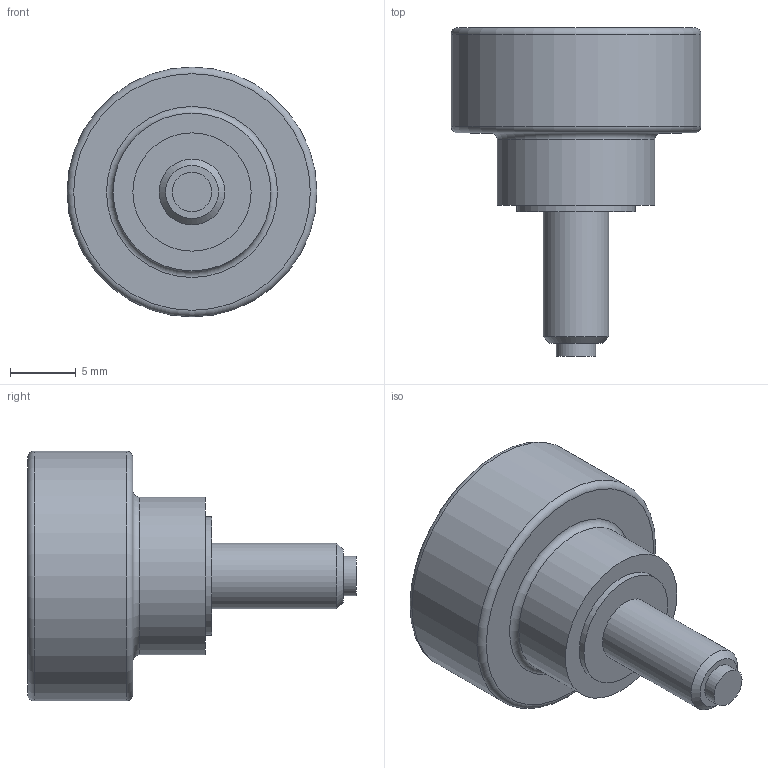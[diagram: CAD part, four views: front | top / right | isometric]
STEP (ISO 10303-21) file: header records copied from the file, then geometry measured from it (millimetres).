
FILE_DESCRIPTION( ( 'STEP AP203' ), '1' );
FILE_NAME( 'C:/Temp/Ganter_Step_05_03_2020/data/2_2/gn_421_10/Hollow knurled knob, with tip GN 421.10-M5-10-KU.stp', '2020-03-05T12:25:30', ( 'License CC BY-ND 4.0' ), ( 'CADENAS' ), ' ', 'PARTsolutions', ' ' );
FILE_SCHEMA( ( 'CONFIG_CONTROL_DESIGN' ) );
Length unit declared in the file: millimetre
Products named in the file (1): _Hollow knurled knob, with tip GN 421.10-M5-10-KU
Bounding box: 19 x 25 x 19 mm (x, y, z)
Volume: 2114.2 mm3; surface area: 1695.5 mm2
Topology: 1 solids, 1 shells, 19 faces, 30 edges, 19 vertices
Faces by surface type: plane 8, cylinder 7, torus 3, cone 1
Full cylindrical faces by diameter (mm): 3 x1, 5 x1, 8 x1, 9 x1, 12 x1, 16 x1, 19 x1
Entity records: 418 total; most frequent: DIRECTION 76, CARTESIAN_POINT 56, AXIS2_PLACEMENT_3D 38, EDGE_LOOP 36, ORIENTED_EDGE 36, FACE_OUTER_BOUND 29, ADVANCED_FACE 19, EDGE_CURVE 18
